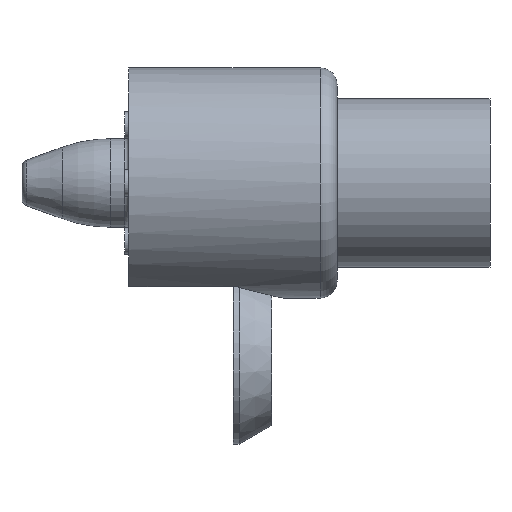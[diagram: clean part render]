
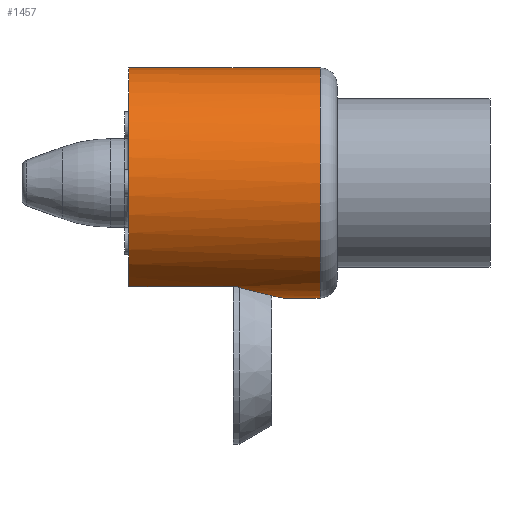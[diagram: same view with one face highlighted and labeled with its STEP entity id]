
A CAD part, left-side view. The second image highlights one B-rep face of the part: STEP entity #1457.
In plain terms, the highlighted cylindrical face has radius 10.319 mm (diameter 20.637 mm), a partial arc.
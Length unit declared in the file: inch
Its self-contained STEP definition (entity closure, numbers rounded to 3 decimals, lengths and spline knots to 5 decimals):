
#26 = DIRECTION ( 'NONE',  ( 0., 1., 0. ) ) ;
#33 = CARTESIAN_POINT ( 'NONE',  ( 0., 0.735, 0. ) ) ;
#37 = CARTESIAN_POINT ( 'NONE',  ( -0.17592, 0.35618, -0.36618 ) ) ;
#43 = CIRCLE ( 'NONE', #842, 0.40625 ) ;
#55 = EDGE_CURVE ( 'NONE', #158, #1212, #820, .T. ) ;
#104 = EDGE_CURVE ( 'NONE', #1087, #602, #286, .T. ) ;
#107 = CARTESIAN_POINT ( 'NONE',  ( -0.15248, 0.31697, -0.37675 ) ) ;
#127 = CARTESIAN_POINT ( 'NONE',  ( 0., 0.735, 0.40625 ) ) ;
#150 = DIRECTION ( 'NONE',  ( 0., 0., 1. ) ) ;
#158 = VERTEX_POINT ( 'NONE', #1106 ) ;
#164 = LINE ( 'NONE', #1209, #1036 ) ;
#181 = CARTESIAN_POINT ( 'NONE',  ( -0.17592, 0.735, -0.36618 ) ) ;
#185 = ORIENTED_EDGE ( 'NONE', *, *, #379, .F. ) ;
#198 = CARTESIAN_POINT ( 'NONE',  ( -0.01058, 0.18986, -0.40625 ) ) ;
#230 = CARTESIAN_POINT ( 'NONE',  ( 0., 0.735, 0. ) ) ;
#286 = CIRCLE ( 'NONE', #1035, 0.40625 ) ;
#297 = VERTEX_POINT ( 'NONE', #181 ) ;
#300 = LINE ( 'NONE', #1387, #488 ) ;
#308 = CARTESIAN_POINT ( 'NONE',  ( -0.04957, 0.20445, -0.40331 ) ) ;
#339 = CARTESIAN_POINT ( 'NONE',  ( -0.17383, 0.35136, -0.36718 ) ) ;
#351 = DIRECTION ( 'NONE',  ( 0., 0., 1. ) ) ;
#379 = EDGE_CURVE ( 'NONE', #893, #1212, #1262, .T. ) ;
#436 = DIRECTION ( 'NONE',  ( 0., -1., 0. ) ) ;
#481 = CARTESIAN_POINT ( 'NONE',  ( -0.17383, 0.35136, -0.36718 ) ) ;
#482 = EDGE_CURVE ( 'NONE', #893, #1087, #630, .T. ) ;
#488 = VECTOR ( 'NONE', #26, 39.37008 ) ;
#554 = CARTESIAN_POINT ( 'NONE',  ( -0.04053, 0.19937, -0.40434 ) ) ;
#588 = DIRECTION ( 'NONE',  ( 0., -1., 0. ) ) ;
#602 = VERTEX_POINT ( 'NONE', #702 ) ;
#630 = LINE ( 'NONE', #686, #1141 ) ;
#666 = CARTESIAN_POINT ( 'NONE',  ( -0.11683, 0.26728, -0.38934 ) ) ;
#672 = CARTESIAN_POINT ( 'NONE',  ( -0.06668, 0.21626, -0.40083 ) ) ;
#677 = CARTESIAN_POINT ( 'NONE',  ( -0.08959, 0.23696, -0.39632 ) ) ;
#686 = CARTESIAN_POINT ( 'NONE',  ( 0., 0.735, -0.40625 ) ) ;
#702 = CARTESIAN_POINT ( 'NONE',  ( 0., 0.06, 0.40625 ) ) ;
#794 = CARTESIAN_POINT ( 'NONE',  ( 0., 0.18986, -0.40625 ) ) ;
#802 = ORIENTED_EDGE ( 'NONE', *, *, #1293, .F. ) ;
#810 = EDGE_CURVE ( 'NONE', #1447, #602, #164, .T. ) ;
#815 = DIRECTION ( 'NONE',  ( 0., 0., -1. ) ) ;
#820 = B_SPLINE_CURVE_WITH_KNOTS ( 'NONE', 3,
 ( #859, #37, #1286, #481 ),
 .UNSPECIFIED., .F., .F.,
 ( 4, 4 ),
 ( 0., 0.0002 ),
 .UNSPECIFIED. ) ;
#842 = AXIS2_PLACEMENT_3D ( 'NONE', #33, #1095, #150 ) ;
#859 = CARTESIAN_POINT ( 'NONE',  ( -0.17592, 0.35886, -0.36618 ) ) ;
#893 = VERTEX_POINT ( 'NONE', #794 ) ;
#898 = CARTESIAN_POINT ( 'NONE',  ( 0., 0.18986, -0.40625 ) ) ;
#919 = CARTESIAN_POINT ( 'NONE',  ( -0.07465, 0.22294, -0.3994 ) ) ;
#923 = CARTESIAN_POINT ( 'NONE',  ( -0.02089, 0.19198, -0.40583 ) ) ;
#928 = CARTESIAN_POINT ( 'NONE',  ( -0.16339, 0.33405, -0.37212 ) ) ;
#935 = CYLINDRICAL_SURFACE ( 'NONE', #1297, 0.40625 ) ;
#962 = FACE_OUTER_BOUND ( 'NONE', #1302, .T. ) ;
#966 = CARTESIAN_POINT ( 'NONE',  ( 0., 0.06, 0. ) ) ;
#1035 = AXIS2_PLACEMENT_3D ( 'NONE', #966, #1070, #351 ) ;
#1036 = VECTOR ( 'NONE', #1321, 39.37008 ) ;
#1045 = CARTESIAN_POINT ( 'NONE',  ( -0.17383, 0.35136, -0.36718 ) ) ;
#1070 = DIRECTION ( 'NONE',  ( 0., 1., 0. ) ) ;
#1087 = VERTEX_POINT ( 'NONE', #1271 ) ;
#1095 = DIRECTION ( 'NONE',  ( 0., 1., 0. ) ) ;
#1106 = CARTESIAN_POINT ( 'NONE',  ( -0.17592, 0.35886, -0.36618 ) ) ;
#1141 = VECTOR ( 'NONE', #436, 39.37008 ) ;
#1149 = ORIENTED_EDGE ( 'NONE', *, *, #55, .T. ) ;
#1150 = ORIENTED_EDGE ( 'NONE', *, *, #482, .T. ) ;
#1151 = EDGE_CURVE ( 'NONE', #158, #297, #300, .T. ) ;
#1209 = CARTESIAN_POINT ( 'NONE',  ( 0., 0.735, 0.40625 ) ) ;
#1212 = VERTEX_POINT ( 'NONE', #339 ) ;
#1262 = B_SPLINE_CURVE_WITH_KNOTS ( 'NONE', 3,
 ( #898, #198, #923, #554, #308, #672, #919, #677, #1473, #666, #1367, #107, #928, #1045 ),
 .UNSPECIFIED., .F., .F.,
 ( 4, 2, 2, 2, 2, 2, 4 ),
 ( 0.00644, 0.00723, 0.00802, 0.00881, 0.0096, 0.01119, 0.01277 ),
 .UNSPECIFIED. ) ;
#1271 = CARTESIAN_POINT ( 'NONE',  ( 0., 0.06, -0.40625 ) ) ;
#1286 = CARTESIAN_POINT ( 'NONE',  ( -0.17517, 0.35359, -0.36655 ) ) ;
#1293 = EDGE_CURVE ( 'NONE', #297, #1447, #43, .T. ) ;
#1297 = AXIS2_PLACEMENT_3D ( 'NONE', #230, #588, #815 ) ;
#1302 = EDGE_LOOP ( 'NONE', ( #1418, #802, #1451, #1149, #185, #1150, #1340 ) ) ;
#1321 = DIRECTION ( 'NONE',  ( 0., -1., 0. ) ) ;
#1340 = ORIENTED_EDGE ( 'NONE', *, *, #104, .T. ) ;
#1367 = CARTESIAN_POINT ( 'NONE',  ( -0.12919, 0.28359, -0.38536 ) ) ;
#1387 = CARTESIAN_POINT ( 'NONE',  ( -0.17592, 0.56827, -0.36618 ) ) ;
#1418 = ORIENTED_EDGE ( 'NONE', *, *, #810, .F. ) ;
#1447 = VERTEX_POINT ( 'NONE', #127 ) ;
#1451 = ORIENTED_EDGE ( 'NONE', *, *, #1151, .F. ) ;
#1457 = ADVANCED_FACE ( 'NONE', ( #962 ), #935, .T. ) ;
#1473 = CARTESIAN_POINT ( 'NONE',  ( -0.09662, 0.24435, -0.39465 ) ) ;
